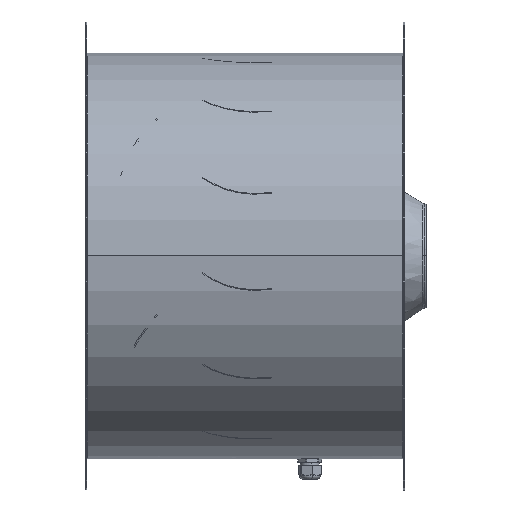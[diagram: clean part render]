
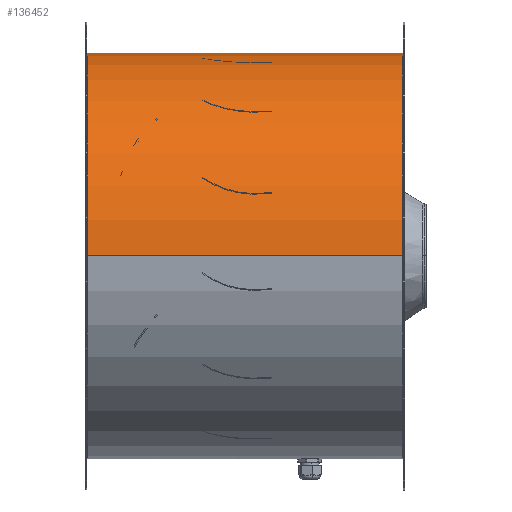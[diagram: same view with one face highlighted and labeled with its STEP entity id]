
A CAD part, top view. The second image highlights one B-rep face of the part: STEP entity #136452.
In plain terms, the highlighted cylindrical face has radius 281.5 mm (diameter 563 mm), a partial arc.
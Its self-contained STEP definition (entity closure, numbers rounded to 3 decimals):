
#724 = DIRECTION ( 'NONE',  ( 1., 0., 0. ) ) ;
#4380 = LINE ( 'NONE', #134033, #187168 ) ;
#11867 = EDGE_CURVE ( 'NONE', #149949, #209006, #397571, .T. ) ;
#12517 = EDGE_CURVE ( 'NONE', #81559, #120472, #182410, .T. ) ;
#13018 = CARTESIAN_POINT ( 'NONE',  ( -140.25, 0., 0. ) ) ;
#15810 = ORIENTED_EDGE ( 'NONE', *, *, #282245, .F. ) ;
#17117 = CARTESIAN_POINT ( 'NONE',  ( -139.5, 0., 281.5 ) ) ;
#17863 = CARTESIAN_POINT ( 'NONE',  ( 298.25, 0., -281.5 ) ) ;
#19085 = EDGE_CURVE ( 'NONE', #149949, #81559, #4380, .T. ) ;
#19762 = CARTESIAN_POINT ( 'NONE',  ( 297.5, 0., 0. ) ) ;
#19897 = CYLINDRICAL_SURFACE ( 'NONE', #143351, 281.5 ) ;
#21935 = CARTESIAN_POINT ( 'NONE',  ( 298.25, 0., 0. ) ) ;
#25605 = CARTESIAN_POINT ( 'NONE',  ( -140.25, 0., -281.5 ) ) ;
#25797 = ORIENTED_EDGE ( 'NONE', *, *, #96858, .F. ) ;
#47574 = DIRECTION ( 'NONE',  ( 0., 0., 1. ) ) ;
#54318 = DIRECTION ( 'NONE',  ( 0., 0., 1. ) ) ;
#54513 = DIRECTION ( 'NONE',  ( 1., 0., 0. ) ) ;
#56490 = DIRECTION ( 'NONE',  ( 0., 0., 1. ) ) ;
#69578 = ORIENTED_EDGE ( 'NONE', *, *, #312563, .T. ) ;
#80723 = CARTESIAN_POINT ( 'NONE',  ( 297.5, 0., 0. ) ) ;
#81559 = VERTEX_POINT ( 'NONE', #17863 ) ;
#85475 = DIRECTION ( 'NONE',  ( 0., 0., 1. ) ) ;
#96858 = EDGE_CURVE ( 'NONE', #314883, #156515, #184844, .T. ) ;
#106922 = CARTESIAN_POINT ( 'NONE',  ( 298.25, 0., 281.5 ) ) ;
#109353 = VECTOR ( 'NONE', #221252, 1000. ) ;
#109831 = AXIS2_PLACEMENT_3D ( 'NONE', #80723, #321043, #115250 ) ;
#115250 = DIRECTION ( 'NONE',  ( 0., 0., 1. ) ) ;
#117786 = CARTESIAN_POINT ( 'NONE',  ( -140.25, 0., 281.5 ) ) ;
#118493 = CIRCLE ( 'NONE', #251536, 281.5 ) ;
#120472 = VERTEX_POINT ( 'NONE', #106922 ) ;
#134033 = CARTESIAN_POINT ( 'NONE',  ( -139.5, 0., -281.5 ) ) ;
#136452 = ADVANCED_FACE ( 'NONE', ( #224230 ), #19897, .T. ) ;
#143351 = AXIS2_PLACEMENT_3D ( 'NONE', #325785, #322838, #85475 ) ;
#146989 = ORIENTED_EDGE ( 'NONE', *, *, #175041, .T. ) ;
#149719 = ORIENTED_EDGE ( 'NONE', *, *, #19085, .F. ) ;
#149949 = VERTEX_POINT ( 'NONE', #272860 ) ;
#154317 = CIRCLE ( 'NONE', #258542, 281.5 ) ;
#156515 = VERTEX_POINT ( 'NONE', #211352 ) ;
#175041 = EDGE_CURVE ( 'NONE', #274258, #120472, #368704, .T. ) ;
#177150 = VERTEX_POINT ( 'NONE', #264572 ) ;
#181529 = CARTESIAN_POINT ( 'NONE',  ( 297.5, 3.016, -281.484 ) ) ;
#182410 = CIRCLE ( 'NONE', #225009, 281.5 ) ;
#184844 = CIRCLE ( 'NONE', #343532, 281.5 ) ;
#187168 = VECTOR ( 'NONE', #375866, 1000. ) ;
#188527 = DIRECTION ( 'NONE',  ( 1., 0., 0. ) ) ;
#190491 = CARTESIAN_POINT ( 'NONE',  ( -139.5, 3., -281.484 ) ) ;
#190931 = ORIENTED_EDGE ( 'NONE', *, *, #240948, .F. ) ;
#206116 = VERTEX_POINT ( 'NONE', #25605 ) ;
#206503 = CARTESIAN_POINT ( 'NONE',  ( -139.5, 0., 0. ) ) ;
#209006 = VERTEX_POINT ( 'NONE', #344364 ) ;
#211352 = CARTESIAN_POINT ( 'NONE',  ( -139.5, 3.016, -281.484 ) ) ;
#221252 = DIRECTION ( 'NONE',  ( 1., 0., 0. ) ) ;
#224230 = FACE_OUTER_BOUND ( 'NONE', #412421, .T. ) ;
#225009 = AXIS2_PLACEMENT_3D ( 'NONE', #21935, #262345, #56490 ) ;
#226655 = ORIENTED_EDGE ( 'NONE', *, *, #12517, .F. ) ;
#236505 = CIRCLE ( 'NONE', #351549, 281.5 ) ;
#240948 = EDGE_CURVE ( 'NONE', #206116, #177150, #302935, .T. ) ;
#241094 = DIRECTION ( 'NONE',  ( 0., 0., 1. ) ) ;
#251536 = AXIS2_PLACEMENT_3D ( 'NONE', #19762, #260186, #54318 ) ;
#252808 = VECTOR ( 'NONE', #188527, 1000. ) ;
#253438 = DIRECTION ( 'NONE',  ( 1., 0., 0. ) ) ;
#258542 = AXIS2_PLACEMENT_3D ( 'NONE', #13018, #253438, #47574 ) ;
#260186 = DIRECTION ( 'NONE',  ( 1., 0., 0. ) ) ;
#260374 = CARTESIAN_POINT ( 'NONE',  ( -139.5, 0., 0. ) ) ;
#262345 = DIRECTION ( 'NONE',  ( 1., 0., 0. ) ) ;
#264572 = CARTESIAN_POINT ( 'NONE',  ( -139.5, 0., -281.5 ) ) ;
#272860 = CARTESIAN_POINT ( 'NONE',  ( 297.5, 0., -281.5 ) ) ;
#274258 = VERTEX_POINT ( 'NONE', #117786 ) ;
#279987 = CARTESIAN_POINT ( 'NONE',  ( -139.5, 0., -281.5 ) ) ;
#282245 = EDGE_CURVE ( 'NONE', #156515, #397170, #344196, .T. ) ;
#290151 = EDGE_CURVE ( 'NONE', #177150, #314883, #236505, .T. ) ;
#294875 = DIRECTION ( 'NONE',  ( 0., 0., 1. ) ) ;
#302935 = LINE ( 'NONE', #279987, #109353 ) ;
#312563 = EDGE_CURVE ( 'NONE', #209006, #397170, #118493, .T. ) ;
#314883 = VERTEX_POINT ( 'NONE', #190491 ) ;
#321043 = DIRECTION ( 'NONE',  ( 1., 0., 0. ) ) ;
#322838 = DIRECTION ( 'NONE',  ( 1., 0., 0. ) ) ;
#325785 = CARTESIAN_POINT ( 'NONE',  ( -139.5, 0., 0. ) ) ;
#343532 = AXIS2_PLACEMENT_3D ( 'NONE', #206503, #724, #241094 ) ;
#344196 = LINE ( 'NONE', #427426, #252808 ) ;
#344364 = CARTESIAN_POINT ( 'NONE',  ( 297.5, 3., -281.484 ) ) ;
#351549 = AXIS2_PLACEMENT_3D ( 'NONE', #260374, #54513, #294875 ) ;
#357935 = VECTOR ( 'NONE', #430250, 1000. ) ;
#368704 = LINE ( 'NONE', #17117, #357935 ) ;
#372856 = ORIENTED_EDGE ( 'NONE', *, *, #442831, .T. ) ;
#375866 = DIRECTION ( 'NONE',  ( 1., 0., 0. ) ) ;
#397170 = VERTEX_POINT ( 'NONE', #181529 ) ;
#397571 = CIRCLE ( 'NONE', #109831, 281.5 ) ;
#406511 = ORIENTED_EDGE ( 'NONE', *, *, #290151, .F. ) ;
#411223 = ORIENTED_EDGE ( 'NONE', *, *, #11867, .T. ) ;
#412421 = EDGE_LOOP ( 'NONE', ( #190931, #372856, #146989, #226655, #149719, #411223, #69578, #15810, #25797, #406511 ) ) ;
#427426 = CARTESIAN_POINT ( 'NONE',  ( -139.5, 3.016, -281.484 ) ) ;
#430250 = DIRECTION ( 'NONE',  ( 1., 0., 0. ) ) ;
#442831 = EDGE_CURVE ( 'NONE', #206116, #274258, #154317, .T. ) ;
